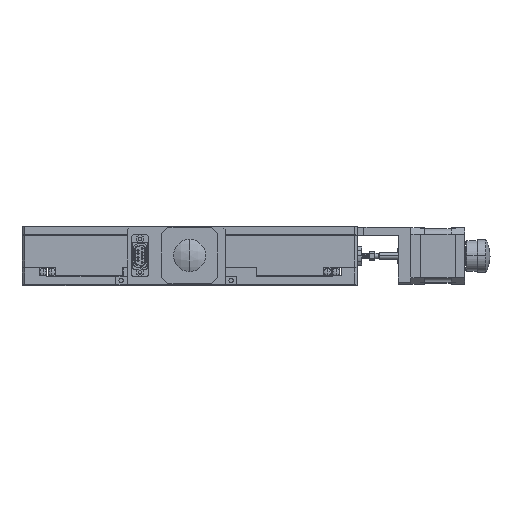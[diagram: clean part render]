
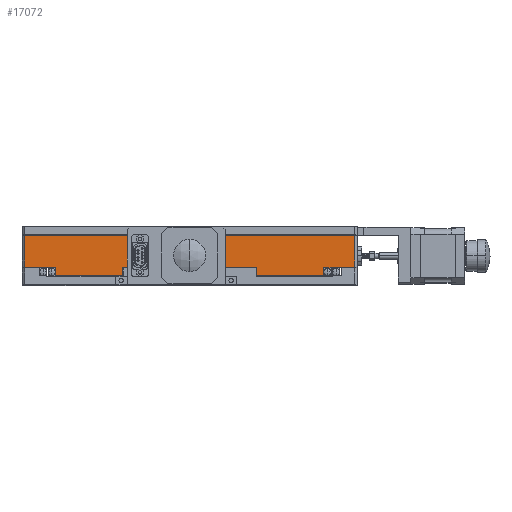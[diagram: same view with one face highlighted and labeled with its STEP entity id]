
A CAD part, top view. The second image highlights one B-rep face of the part: STEP entity #17072.
In plain terms, the highlighted planar face has unit normal (0, 0, 1).
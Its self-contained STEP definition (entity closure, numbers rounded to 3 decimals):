
#557 = EDGE_CURVE ( 'NONE', #27259, #15663, #11770, .T. ) ;
#763 = LINE ( 'NONE', #32280, #29980 ) ;
#780 = CARTESIAN_POINT ( 'NONE',  ( -50., -8.5, 125. ) ) ;
#1587 = EDGE_CURVE ( 'NONE', #26746, #2890, #36495, .T. ) ;
#1632 = VECTOR ( 'NONE', #12361, 1000. ) ;
#2065 = CARTESIAN_POINT ( 'NONE',  ( -125., -15., 125. ) ) ;
#2070 = EDGE_CURVE ( 'NONE', #7522, #34241, #2401, .T. ) ;
#2089 = VERTEX_POINT ( 'NONE', #12640 ) ;
#2401 = LINE ( 'NONE', #35262, #27211 ) ;
#2890 = VERTEX_POINT ( 'NONE', #33105 ) ;
#2939 = VERTEX_POINT ( 'NONE', #24862 ) ;
#4064 = CARTESIAN_POINT ( 'NONE',  ( 125., -8.5, 125. ) ) ;
#4159 = CARTESIAN_POINT ( 'NONE',  ( 50., -8.5, 125. ) ) ;
#4807 = PLANE ( 'NONE',  #21175 ) ;
#5071 = CIRCLE ( 'NONE', #9520, 6. ) ;
#5463 = EDGE_CURVE ( 'NONE', #31456, #21818, #15507, .T. ) ;
#5529 = DIRECTION ( 'NONE',  ( 1., 0., 0. ) ) ;
#5983 = ORIENTED_EDGE ( 'NONE', *, *, #2070, .F. ) ;
#5999 = ORIENTED_EDGE ( 'NONE', *, *, #20969, .F. ) ;
#6137 = CARTESIAN_POINT ( 'NONE',  ( 100., -9., 125. ) ) ;
#6202 = CARTESIAN_POINT ( 'NONE',  ( 6., 0., 125. ) ) ;
#6348 = EDGE_CURVE ( 'NONE', #36680, #2890, #27809, .T. ) ;
#6506 = DIRECTION ( 'NONE',  ( 0., -1., 0. ) ) ;
#7262 = VERTEX_POINT ( 'NONE', #20495 ) ;
#7333 = DIRECTION ( 'NONE',  ( 0., 1., 0. ) ) ;
#7409 = CARTESIAN_POINT ( 'NONE',  ( -100., -9., 125. ) ) ;
#7522 = VERTEX_POINT ( 'NONE', #24068 ) ;
#7869 = ORIENTED_EDGE ( 'NONE', *, *, #5463, .F. ) ;
#8233 = LINE ( 'NONE', #10832, #13985 ) ;
#8244 = EDGE_CURVE ( 'NONE', #12381, #2939, #763, .T. ) ;
#8288 = CARTESIAN_POINT ( 'NONE',  ( -105.5, -9., 125. ) ) ;
#8297 = EDGE_CURVE ( 'NONE', #34762, #7262, #20271, .T. ) ;
#8469 = ORIENTED_EDGE ( 'NONE', *, *, #27661, .F. ) ;
#8939 = ORIENTED_EDGE ( 'NONE', *, *, #21511, .T. ) ;
#8986 = LINE ( 'NONE', #8288, #31104 ) ;
#9520 = AXIS2_PLACEMENT_3D ( 'NONE', #26253, #20336, #26136 ) ;
#9804 = VECTOR ( 'NONE', #23172, 1000. ) ;
#9863 = LINE ( 'NONE', #17932, #32043 ) ;
#9905 = EDGE_LOOP ( 'NONE', ( #24522, #35484, #36027, #8939, #26723, #7869, #5999, #33290, #17646, #24959, #10565, #5983, #33354, #8469, #29420, #31626 ) ) ;
#10565 = ORIENTED_EDGE ( 'NONE', *, *, #19348, .F. ) ;
#10832 = CARTESIAN_POINT ( 'NONE',  ( -125., -15., 125. ) ) ;
#11008 = DIRECTION ( 'NONE',  ( 0., -1., 0. ) ) ;
#11379 = EDGE_CURVE ( 'NONE', #7262, #12381, #16516, .T. ) ;
#11573 = EDGE_CURVE ( 'NONE', #34762, #27259, #13403, .T. ) ;
#11770 = LINE ( 'NONE', #13667, #31257 ) ;
#11787 = LINE ( 'NONE', #6137, #33050 ) ;
#12041 = VECTOR ( 'NONE', #20286, 1000. ) ;
#12067 = CARTESIAN_POINT ( 'NONE',  ( -123., 0., 125. ) ) ;
#12361 = DIRECTION ( 'NONE',  ( -1., 0., 0. ) ) ;
#12381 = VERTEX_POINT ( 'NONE', #29516 ) ;
#12640 = CARTESIAN_POINT ( 'NONE',  ( -123., -8.5, 125. ) ) ;
#12862 = EDGE_CURVE ( 'NONE', #36680, #22805, #32411, .T. ) ;
#13182 = CARTESIAN_POINT ( 'NONE',  ( 100., -15., 125. ) ) ;
#13403 = LINE ( 'NONE', #15060, #20568 ) ;
#13548 = CARTESIAN_POINT ( 'NONE',  ( -123., 15., 125. ) ) ;
#13667 = CARTESIAN_POINT ( 'NONE',  ( -125., 15., 125. ) ) ;
#13689 = CIRCLE ( 'NONE', #21343, 6. ) ;
#13819 = CARTESIAN_POINT ( 'NONE',  ( -6., 0., 125. ) ) ;
#13879 = CARTESIAN_POINT ( 'NONE',  ( -50., -21.5, 125. ) ) ;
#13985 = VECTOR ( 'NONE', #5529, 1000. ) ;
#14486 = EDGE_CURVE ( 'NONE', #16677, #28777, #13689, .T. ) ;
#14638 = DIRECTION ( 'NONE',  ( 0., 0., 1. ) ) ;
#14741 = LINE ( 'NONE', #12067, #12041 ) ;
#14876 = VECTOR ( 'NONE', #11008, 1000. ) ;
#15060 = CARTESIAN_POINT ( 'NONE',  ( 123., 0., 125. ) ) ;
#15442 = ORIENTED_EDGE ( 'NONE', *, *, #34899, .F. ) ;
#15507 = LINE ( 'NONE', #29735, #17275 ) ;
#15663 = VERTEX_POINT ( 'NONE', #13548 ) ;
#16516 = LINE ( 'NONE', #25105, #18365 ) ;
#16677 = VERTEX_POINT ( 'NONE', #6202 ) ;
#17072 = ADVANCED_FACE ( 'NONE', ( #22905, #29540 ), #4807, .F. ) ;
#17257 = EDGE_CURVE ( 'NONE', #7522, #35972, #8233, .T. ) ;
#17275 = VECTOR ( 'NONE', #29510, 1000. ) ;
#17646 = ORIENTED_EDGE ( 'NONE', *, *, #6348, .T. ) ;
#17932 = CARTESIAN_POINT ( 'NONE',  ( -125., -8.5, 125. ) ) ;
#18365 = VECTOR ( 'NONE', #19168, 1000. ) ;
#19066 = DIRECTION ( 'NONE',  ( 0., 0., -1. ) ) ;
#19168 = DIRECTION ( 'NONE',  ( 0., -1., 0. ) ) ;
#19348 = EDGE_CURVE ( 'NONE', #34241, #26746, #21918, .T. ) ;
#19751 = CARTESIAN_POINT ( 'NONE',  ( -105.5, -8.5, 125. ) ) ;
#20271 = LINE ( 'NONE', #4064, #1632 ) ;
#20286 = DIRECTION ( 'NONE',  ( 0., -1., 0. ) ) ;
#20336 = DIRECTION ( 'NONE',  ( 0., 0., 1. ) ) ;
#20495 = CARTESIAN_POINT ( 'NONE',  ( 105.5, -8.5, 125. ) ) ;
#20568 = VECTOR ( 'NONE', #23372, 1000. ) ;
#20654 = EDGE_CURVE ( 'NONE', #21818, #2089, #9863, .T. ) ;
#20969 = EDGE_CURVE ( 'NONE', #22805, #31456, #8986, .T. ) ;
#21175 = AXIS2_PLACEMENT_3D ( 'NONE', #35954, #19066, #30416 ) ;
#21343 = AXIS2_PLACEMENT_3D ( 'NONE', #31816, #14638, #34642 ) ;
#21511 = EDGE_CURVE ( 'NONE', #15663, #2089, #14741, .T. ) ;
#21666 = VECTOR ( 'NONE', #27330, 1000. ) ;
#21697 = CARTESIAN_POINT ( 'NONE',  ( -50., -8.5, 125. ) ) ;
#21818 = VERTEX_POINT ( 'NONE', #19751 ) ;
#21918 = LINE ( 'NONE', #780, #34246 ) ;
#22805 = VERTEX_POINT ( 'NONE', #7409 ) ;
#22905 = FACE_BOUND ( 'NONE', #33306, .T. ) ;
#23172 = DIRECTION ( 'NONE',  ( 0., 1., 0. ) ) ;
#23372 = DIRECTION ( 'NONE',  ( 0., 1., 0. ) ) ;
#24027 = CARTESIAN_POINT ( 'NONE',  ( -105.5, -9., 125. ) ) ;
#24068 = CARTESIAN_POINT ( 'NONE',  ( 50., -15., 125. ) ) ;
#24148 = DIRECTION ( 'NONE',  ( -1., 0., 0. ) ) ;
#24522 = ORIENTED_EDGE ( 'NONE', *, *, #8297, .F. ) ;
#24862 = CARTESIAN_POINT ( 'NONE',  ( 100., -9., 125. ) ) ;
#24959 = ORIENTED_EDGE ( 'NONE', *, *, #1587, .F. ) ;
#25105 = CARTESIAN_POINT ( 'NONE',  ( 105.5, -8.5, 125. ) ) ;
#26084 = DIRECTION ( 'NONE',  ( -1., 0., 0. ) ) ;
#26136 = DIRECTION ( 'NONE',  ( 1., 0., 0. ) ) ;
#26253 = CARTESIAN_POINT ( 'NONE',  ( 0., 0., 125. ) ) ;
#26723 = ORIENTED_EDGE ( 'NONE', *, *, #20654, .F. ) ;
#26746 = VERTEX_POINT ( 'NONE', #21697 ) ;
#27211 = VECTOR ( 'NONE', #7333, 1000. ) ;
#27259 = VERTEX_POINT ( 'NONE', #36416 ) ;
#27330 = DIRECTION ( 'NONE',  ( 1., 0., 0. ) ) ;
#27661 = EDGE_CURVE ( 'NONE', #2939, #35972, #11787, .T. ) ;
#27809 = LINE ( 'NONE', #2065, #21666 ) ;
#28211 = DIRECTION ( 'NONE',  ( -1., 0., 0. ) ) ;
#28777 = VERTEX_POINT ( 'NONE', #13819 ) ;
#29420 = ORIENTED_EDGE ( 'NONE', *, *, #8244, .F. ) ;
#29510 = DIRECTION ( 'NONE',  ( 0., 1., 0. ) ) ;
#29516 = CARTESIAN_POINT ( 'NONE',  ( 105.5, -9., 125. ) ) ;
#29540 = FACE_OUTER_BOUND ( 'NONE', #9905, .T. ) ;
#29578 = ORIENTED_EDGE ( 'NONE', *, *, #14486, .F. ) ;
#29735 = CARTESIAN_POINT ( 'NONE',  ( -105.5, -8.5, 125. ) ) ;
#29980 = VECTOR ( 'NONE', #24148, 1000. ) ;
#30416 = DIRECTION ( 'NONE',  ( -1., 0., 0. ) ) ;
#31104 = VECTOR ( 'NONE', #28211, 1000. ) ;
#31257 = VECTOR ( 'NONE', #33448, 1000. ) ;
#31456 = VERTEX_POINT ( 'NONE', #24027 ) ;
#31626 = ORIENTED_EDGE ( 'NONE', *, *, #11379, .F. ) ;
#31816 = CARTESIAN_POINT ( 'NONE',  ( 0., 0., 125. ) ) ;
#31952 = DIRECTION ( 'NONE',  ( -1., 0., 0. ) ) ;
#32043 = VECTOR ( 'NONE', #26084, 1000. ) ;
#32280 = CARTESIAN_POINT ( 'NONE',  ( 105.5, -9., 125. ) ) ;
#32411 = LINE ( 'NONE', #34388, #9804 ) ;
#33050 = VECTOR ( 'NONE', #6506, 1000. ) ;
#33105 = CARTESIAN_POINT ( 'NONE',  ( -50., -15., 125. ) ) ;
#33290 = ORIENTED_EDGE ( 'NONE', *, *, #12862, .F. ) ;
#33306 = EDGE_LOOP ( 'NONE', ( #29578, #15442 ) ) ;
#33354 = ORIENTED_EDGE ( 'NONE', *, *, #17257, .T. ) ;
#33448 = DIRECTION ( 'NONE',  ( -1., 0., 0. ) ) ;
#34011 = CARTESIAN_POINT ( 'NONE',  ( 123., -8.5, 125. ) ) ;
#34139 = CARTESIAN_POINT ( 'NONE',  ( -100., -15., 125. ) ) ;
#34241 = VERTEX_POINT ( 'NONE', #4159 ) ;
#34246 = VECTOR ( 'NONE', #31952, 1000. ) ;
#34388 = CARTESIAN_POINT ( 'NONE',  ( -100., -9., 125. ) ) ;
#34642 = DIRECTION ( 'NONE',  ( 1., 0., 0. ) ) ;
#34762 = VERTEX_POINT ( 'NONE', #34011 ) ;
#34899 = EDGE_CURVE ( 'NONE', #28777, #16677, #5071, .T. ) ;
#35262 = CARTESIAN_POINT ( 'NONE',  ( 50., -21.5, 125. ) ) ;
#35484 = ORIENTED_EDGE ( 'NONE', *, *, #11573, .T. ) ;
#35954 = CARTESIAN_POINT ( 'NONE',  ( 0., 0., 125. ) ) ;
#35972 = VERTEX_POINT ( 'NONE', #13182 ) ;
#36027 = ORIENTED_EDGE ( 'NONE', *, *, #557, .T. ) ;
#36416 = CARTESIAN_POINT ( 'NONE',  ( 123., 15., 125. ) ) ;
#36495 = LINE ( 'NONE', #13879, #14876 ) ;
#36680 = VERTEX_POINT ( 'NONE', #34139 ) ;
